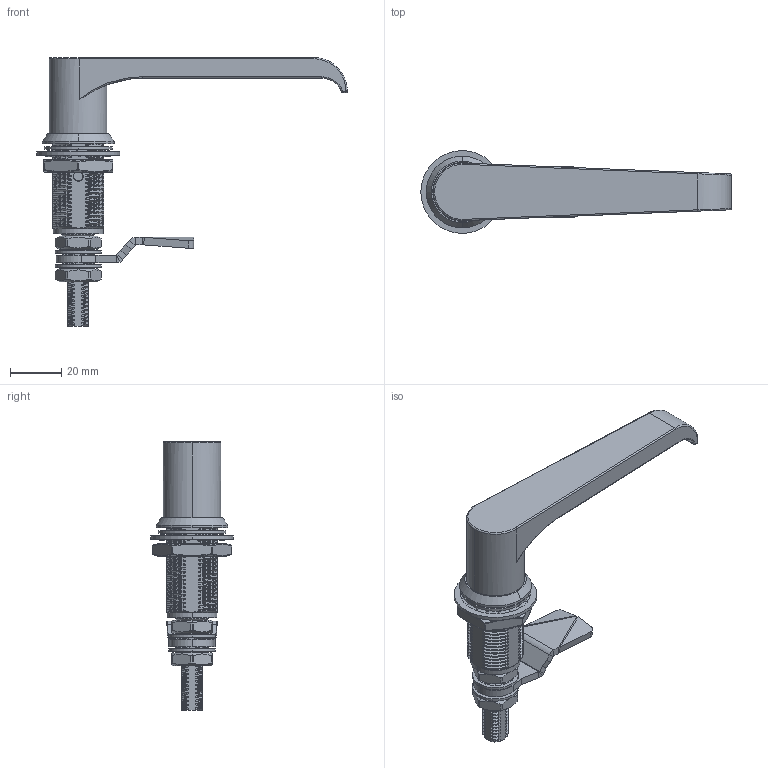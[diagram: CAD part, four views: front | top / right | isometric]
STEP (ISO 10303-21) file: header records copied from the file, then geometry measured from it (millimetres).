
FILE_DESCRIPTION (( 'STEP AP214' ), '1' );
FILE_NAME ('CUYUE B-1309.STEP', '2026-06-20T06:42:06', ( '' ), ( '' ), 'SwSTEP 2.0', 'SolidWorks 2020', '' );
FILE_SCHEMA (( 'AUTOMOTIVE_DESIGN' ));
Products named in the file (18): B-1309L.sldasm-Part-3; B-1309L.sldasm-Part-13; B-1309L.sldasm-Part-5; B-1309L.sldasm-Part-6; CUYUE B-1309; B-1309L.sldasm-Part-17; B-1309L.sldasm-Part-10; B-1309L.sldasm-Part-2; B-1309L.sldasm-Part-9; B-1309L.sldasm-Part-1; B-1309L.sldasm-Part-11; B-1309L.sldasm-Part-8; B-1309L.sldasm-Part-15; B-1309L.sldasm-Part-14; B-1309L.sldasm-Part-7; B-1309L.sldasm-Part-12; B-1309L.sldasm-Part-16; B-1309L.sldasm-Part-4
Assembly tree (16 placements, depth 2):
  CUYUE B-1309
    B-1309L.sldasm-Part-1
    B-1309L.sldasm-Part-2
    B-1309L.sldasm-Part-3
    B-1309L.sldasm-Part-4
    B-1309L.sldasm-Part-5
    B-1309L.sldasm-Part-6
    B-1309L.sldasm-Part-7
    B-1309L.sldasm-Part-8
    B-1309L.sldasm-Part-9
    B-1309L.sldasm-Part-10
    B-1309L.sldasm-Part-11
    B-1309L.sldasm-Part-12
    B-1309L.sldasm-Part-13
    B-1309L.sldasm-Part-14
    B-1309L.sldasm-Part-15
    B-1309L.sldasm-Part-17
  B-1309L.sldasm-Part-16
Bounding box: 121.1 x 32.3 x 104.9 mm (x, y, z)
Volume: 47153.3 mm3; surface area: 26572 mm2
Topology: 16 solids, 16 shells, 1813 faces, 5034 edges, 3258 vertices
Faces by surface type: cylinder 720, bspline 533, plane 443, cone 85, torus 19, sphere 13
Entity records: 525948 total; most frequent: CARTESIAN_POINT 485507, ORIENTED_EDGE 10064, DIRECTION 5536, EDGE_CURVE 5032, VERTEX_POINT 3258, B_SPLINE_CURVE_WITH_KNOTS 2693, AXIS2_PLACEMENT_3D 1958, EDGE_LOOP 1854
